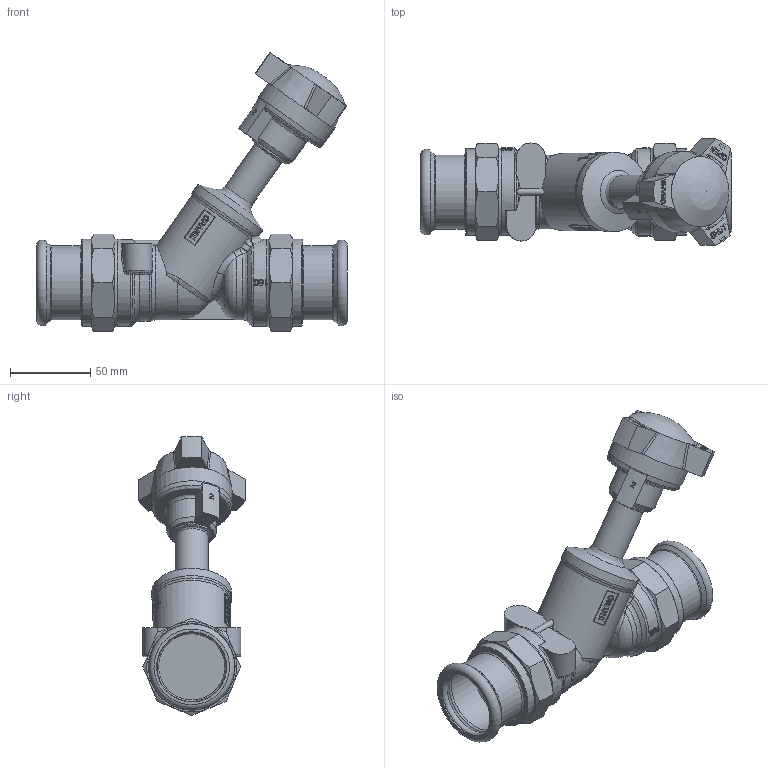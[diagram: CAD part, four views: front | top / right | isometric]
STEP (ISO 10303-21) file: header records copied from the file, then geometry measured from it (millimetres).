
FILE_DESCRIPTION((''),'2;1');
FILE_NAME('P:\Fastrack\53972_CRANE 3D\Push Fit\D921\D921-PF_42mm\D921-PF_42mm.stp','2011-08-24T08:53:12',('btaylor'),(''),'Autodesk Inventor 2008','Autodesk Inventor 2008','');
FILE_SCHEMA(('AUTOMOTIVE_DESIGN { 1 0 10303 214 1 1 1 1 }'));
Length unit declared in the file: millimetre
Products named in the file (1): D921-PF_42mm
Bounding box: 193.2 x 66.44 x 173.6 mm (x, y, z)
Volume: 427581.5 mm3; surface area: 76498.9 mm2
Topology: 1 solids, 3 shells, 833 faces, 2211 edges, 1434 vertices
Faces by surface type: bspline 374, plane 322, cylinder 66, cone 54, torus 15, sphere 2
Full cylindrical faces by diameter (mm): 20.5 x1, 42.35 x2, 43 x2, 46 x2, 49.5 x1, 50 x1, 54 x4
Entity records: 82672 total; most frequent: CARTESIAN_POINT 64962, ORIENTED_EDGE 4276, DIRECTION 2451, EDGE_CURVE 2138, VERTEX_POINT 1413, VECTOR 941, LINE 941, EDGE_LOOP 933
